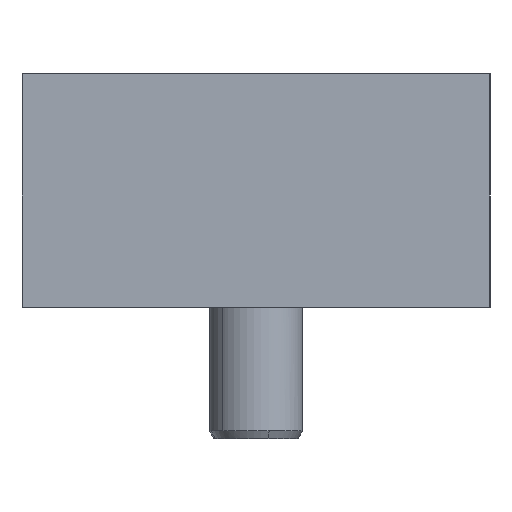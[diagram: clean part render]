
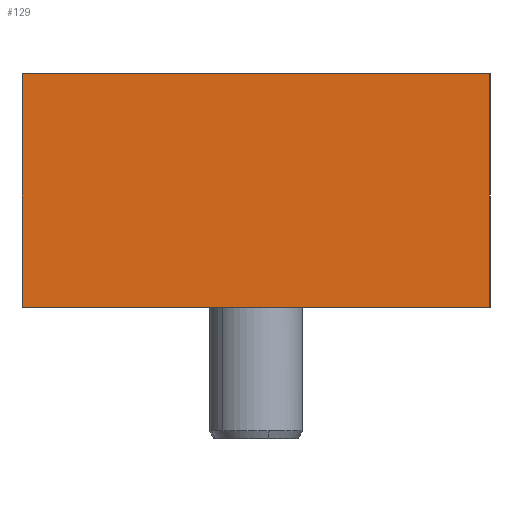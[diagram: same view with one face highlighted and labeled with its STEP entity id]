
A CAD part, left-side view. The second image highlights one B-rep face of the part: STEP entity #129.
In plain terms, the highlighted planar face has unit normal (-1, 0, 0).
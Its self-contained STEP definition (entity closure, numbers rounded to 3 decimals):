
#129=ADVANCED_FACE('5252083.1_Leiste fuer Aufnahmeadapter SW50',(#292),#293,.F.);
#292=FACE_OUTER_BOUND('',#490,.T.);
#293=PLANE('',#491);
#490=EDGE_LOOP('',(#797,#798,#799,#800));
#491=AXIS2_PLACEMENT_3D('',#801,#802,#803);
#797=ORIENTED_EDGE('',*,*,#1209,.F.);
#798=ORIENTED_EDGE('',*,*,#1186,.F.);
#799=ORIENTED_EDGE('',*,*,#1211,.F.);
#800=ORIENTED_EDGE('',*,*,#1197,.F.);
#801=CARTESIAN_POINT('',(-157.5,0.0,0.0));
#802=DIRECTION('',(1.0,-0.0,0.0));
#803=DIRECTION('',(0.0,0.0,-1.0));
#1186=EDGE_CURVE('',#1444,#1446,#1447,.T.);
#1197=EDGE_CURVE('',#1459,#1461,#1462,.T.);
#1209=EDGE_CURVE('',#1446,#1459,#1474,.T.);
#1211=EDGE_CURVE('',#1461,#1444,#1476,.T.);
#1444=VERTEX_POINT('',#2178);
#1446=VERTEX_POINT('',#2181);
#1447=B_SPLINE_CURVE_WITH_KNOTS('',1,(#2182,#2183),.UNSPECIFIED.,.F.,.F.,(2,2),(0.0,1.0),.UNSPECIFIED.);
#1459=VERTEX_POINT('',#2263);
#1461=VERTEX_POINT('',#2266);
#1462=B_SPLINE_CURVE_WITH_KNOTS('',1,(#2267,#2268),.UNSPECIFIED.,.F.,.F.,(2,2),(0.0,1.0),.UNSPECIFIED.);
#1474=B_SPLINE_CURVE_WITH_KNOTS('',1,(#2349,#2350),.UNSPECIFIED.,.F.,.F.,(2,2),(0.0,1.0),.UNSPECIFIED.);
#1476=B_SPLINE_CURVE_WITH_KNOTS('',1,(#2352,#2353),.UNSPECIFIED.,.F.,.F.,(2,2),(0.,1.0),.UNSPECIFIED.);
#2178=CARTESIAN_POINT('',(-157.5,15.0,15.0));
#2181=CARTESIAN_POINT('',(-157.5,-15.0,15.0));
#2182=CARTESIAN_POINT('',(-157.5,15.0,15.0));
#2183=CARTESIAN_POINT('',(-157.5,-15.0,15.0));
#2263=CARTESIAN_POINT('',(-157.5,-15.0,0.));
#2266=CARTESIAN_POINT('',(-157.5,15.0,0.));
#2267=CARTESIAN_POINT('',(-157.5,-15.0,0.));
#2268=CARTESIAN_POINT('',(-157.5,15.0,0.));
#2349=CARTESIAN_POINT('',(-157.5,-15.0,15.0));
#2350=CARTESIAN_POINT('',(-157.5,-15.0,0.));
#2352=CARTESIAN_POINT('',(-157.5,15.0,0.));
#2353=CARTESIAN_POINT('',(-157.5,15.0,15.0));
